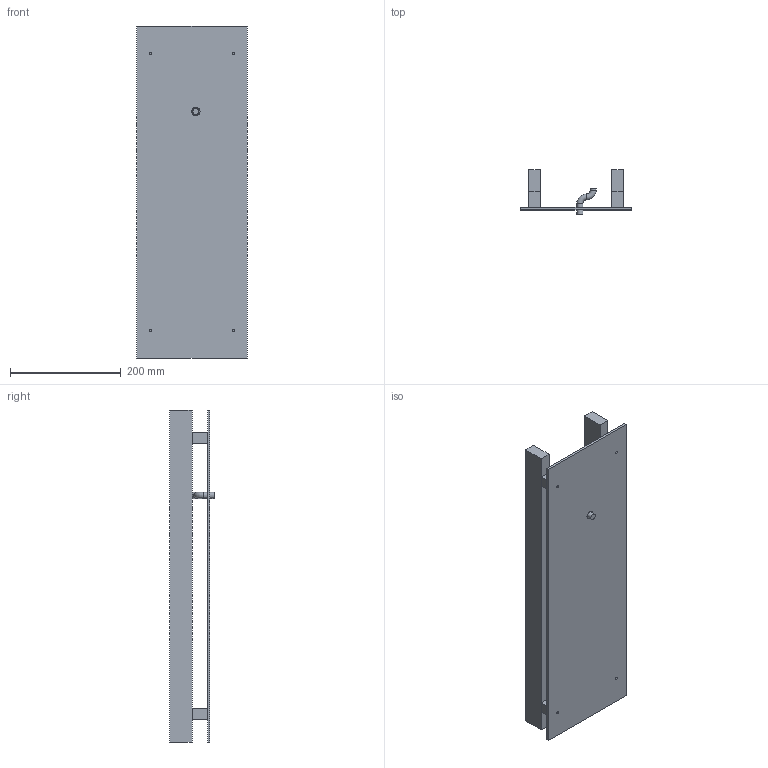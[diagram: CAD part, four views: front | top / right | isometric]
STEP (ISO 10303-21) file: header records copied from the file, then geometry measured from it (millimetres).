
FILE_DESCRIPTION(('Open CASCADE Model'),'2;1');
FILE_NAME('Open CASCADE Shape Model','2026-11-14T16:01:05',('Author'),( 'Open CASCADE'),'Open CASCADE STEP processor 7.9','Open CASCADE 7.9' ,'Unknown');
FILE_SCHEMA(('AUTOMOTIVE_DESIGN { 1 0 10303 214 1 1 1 1 }'));
Length unit declared in the file: millimetre
Products named in the file (9): Open CASCADE STEP translator 7.9 18; Open CASCADE STEP translator 7.9 18.1; Open CASCADE STEP translator 7.9 18.2; Open CASCADE STEP translator 7.9 18.3; Open CASCADE STEP translator 7.9 18.4; Open CASCADE STEP translator 7.9 18.5; Open CASCADE STEP translator 7.9 18.6; Open CASCADE STEP translator 7.9 18.7; Open CASCADE STEP translator 7.9 18.8
Assembly tree (8 placements, depth 2):
  Open CASCADE STEP translator 7.9 18
    Open CASCADE STEP translator 7.9 18.1
    Open CASCADE STEP translator 7.9 18.2
    Open CASCADE STEP translator 7.9 18.3
    Open CASCADE STEP translator 7.9 18.4
    Open CASCADE STEP translator 7.9 18.5
    Open CASCADE STEP translator 7.9 18.6
    Open CASCADE STEP translator 7.9 18.7
    Open CASCADE STEP translator 7.9 18.8
Bounding box: 200 x 79.92 x 600 mm (x, y, z)
Volume: 1487751.7 mm3; surface area: 409410.9 mm2
Topology: 8 solids, 8 shells, 57 faces, 120 edges, 79 vertices
Faces by surface type: plane 44, cylinder 11, torus 2
Full cylindrical faces by diameter (mm): 4.5 x8, 11 x2, 15 x1
Entity records: 3244 total; most frequent: CARTESIAN_POINT 512, DIRECTION 510, LINE 308, VECTOR 308, ORIENTED_EDGE 240, PCURVE 240, DEFINITIONAL_REPRESENTATION 240, EDGE_CURVE 120
